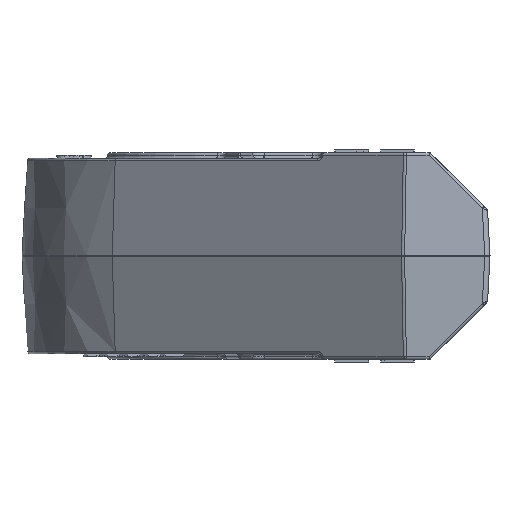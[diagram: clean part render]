
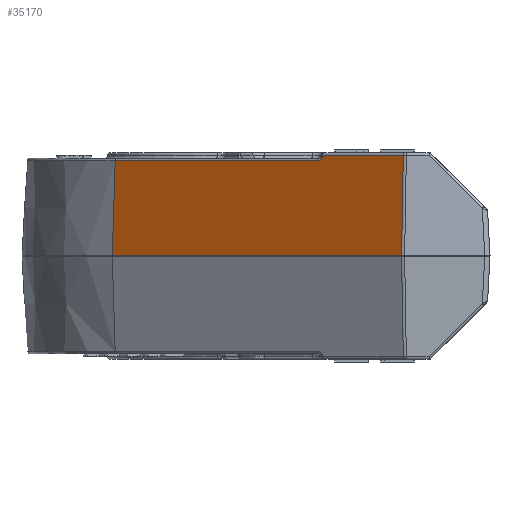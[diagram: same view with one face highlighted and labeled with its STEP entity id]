
A CAD part, left-side view. The second image highlights one B-rep face of the part: STEP entity #35170.
In plain terms, the highlighted planar face has unit normal (-0.81, 0.585, 0.052).
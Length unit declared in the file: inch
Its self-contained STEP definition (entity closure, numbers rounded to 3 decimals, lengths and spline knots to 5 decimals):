
#629 = EDGE_CURVE ( 'NONE', #31764, #2611, #32347, .T. ) ;
#693 = CARTESIAN_POINT ( 'NONE',  ( -1.84766, -0.47511, 0.57561 ) ) ;
#829 = CARTESIAN_POINT ( 'NONE',  ( -1.84763, -0.47523, 0.57739 ) ) ;
#1076 = ORIENTED_EDGE ( 'NONE', *, *, #629, .F. ) ;
#2611 = VERTEX_POINT ( 'NONE', #23247 ) ;
#2899 = VERTEX_POINT ( 'NONE', #45227 ) ;
#3457 = CARTESIAN_POINT ( 'NONE',  ( -1.82785, -0.44523, 0.54829 ) ) ;
#3641 = VERTEX_POINT ( 'NONE', #51907 ) ;
#4144 = CARTESIAN_POINT ( 'NONE',  ( -0.99013, 0.71494, 0.54829 ) ) ;
#7547 =( BOUNDED_CURVE ( )  B_SPLINE_CURVE ( 3, ( #3457, #48493, #35960, #40728 ),
 .UNSPECIFIED., .F., .F. ) 
 B_SPLINE_CURVE_WITH_KNOTS ( ( 4, 4 ),
 ( 4.80167, 6.28319 ),
 .UNSPECIFIED. ) 
 CURVE ( )  GEOMETRIC_REPRESENTATION_ITEM ( )  RATIONAL_B_SPLINE_CURVE ( ( 1., 0.825, 0.825, 1. ) ) 
 REPRESENTATION_ITEM ( '' )  );
#7894 = CARTESIAN_POINT ( 'NONE',  ( -1.8475, -0.47523, 0.57954 ) ) ;
#8786 = CARTESIAN_POINT ( 'NONE',  ( -1.84766, -0.47519, 0.5765 ) ) ;
#8865 = CARTESIAN_POINT ( 'NONE',  ( -2.18016, -0.94029, 0.6282 ) ) ;
#9030 = EDGE_CURVE ( 'NONE', #27590, #38512, #25603, .T. ) ;
#10802 = VERTEX_POINT ( 'NONE', #24592 ) ;
#11014 = EDGE_CURVE ( 'NONE', #2899, #31764, #7547, .T. ) ;
#11278 = CARTESIAN_POINT ( 'NONE',  ( -1.84858, -0.47523, 0.56279 ) ) ;
#11896 = CARTESIAN_POINT ( 'NONE',  ( -1.01335, 0.73172, 0.00157 ) ) ;
#12937 = DIRECTION ( 'NONE',  ( 0.052, -0.017, 0.998 ) ) ;
#13216 = ORIENTED_EDGE ( 'NONE', *, *, #37309, .T. ) ;
#13675 = VECTOR ( 'NONE', #29245, 39.37008 ) ;
#13821 = EDGE_CURVE ( 'NONE', #3641, #23132, #42950, .T. ) ;
#14807 = ORIENTED_EDGE ( 'NONE', *, *, #9030, .T. ) ;
#15315 = CARTESIAN_POINT ( 'NONE',  ( -0.98819, 0.71355, 0.59375 ) ) ;
#16882 = CARTESIAN_POINT ( 'NONE',  ( -1.01335, 0.73172, 0.00157 ) ) ;
#17953 = ORIENTED_EDGE ( 'NONE', *, *, #13821, .T. ) ;
#18769 = EDGE_LOOP ( 'NONE', ( #24137, #34765, #17953, #22640, #1076, #22235, #13216, #14807 ) ) ;
#21082 = EDGE_CURVE ( 'NONE', #23132, #2611, #24823, .T. ) ;
#21129 = CARTESIAN_POINT ( 'NONE',  ( -1.84766, -0.47511, 0.57561 ) ) ;
#22235 = ORIENTED_EDGE ( 'NONE', *, *, #11014, .F. ) ;
#22640 = ORIENTED_EDGE ( 'NONE', *, *, #21082, .T. ) ;
#23132 = VERTEX_POINT ( 'NONE', #7894 ) ;
#23247 = CARTESIAN_POINT ( 'NONE',  ( -1.84758, -0.47523, 0.57829 ) ) ;
#24137 = ORIENTED_EDGE ( 'NONE', *, *, #38955, .T. ) ;
#24592 = CARTESIAN_POINT ( 'NONE',  ( -2.213, -0.92967, 0.00157 ) ) ;
#24823 = LINE ( 'NONE', #11278, #48785 ) ;
#25155 = LINE ( 'NONE', #11896, #44014 ) ;
#25253 = EDGE_CURVE ( 'NONE', #10802, #3641, #28270, .T. ) ;
#25603 = LINE ( 'NONE', #49669, #13675 ) ;
#27590 = VERTEX_POINT ( 'NONE', #40879 ) ;
#28270 = LINE ( 'NONE', #8865, #49055 ) ;
#28989 = CARTESIAN_POINT ( 'NONE',  ( -1.84758, -0.47523, 0.57829 ) ) ;
#29245 = DIRECTION ( 'NONE',  ( -0.042, 0.031, -0.999 ) ) ;
#30875 = LINE ( 'NONE', #4144, #34644 ) ;
#31764 = VERTEX_POINT ( 'NONE', #693 ) ;
#32347 =( BOUNDED_CURVE ( )  B_SPLINE_CURVE ( 3, ( #21129, #8786, #829, #28989 ),
 .UNSPECIFIED., .F., .F. ) 
 B_SPLINE_CURVE_WITH_KNOTS ( ( 4, 4 ),
 ( 0., 0.08929 ),
 .UNSPECIFIED. ) 
 CURVE ( )  GEOMETRIC_REPRESENTATION_ITEM ( )  RATIONAL_B_SPLINE_CURVE ( ( 1., 0.999, 0.999, 1. ) ) 
 REPRESENTATION_ITEM ( '' )  );
#34086 = VECTOR ( 'NONE', #46103, 39.37008 ) ;
#34644 = VECTOR ( 'NONE', #36291, 39.37008 ) ;
#34765 = ORIENTED_EDGE ( 'NONE', *, *, #25253, .T. ) ;
#35170 = ADVANCED_FACE ( 'NONE', ( #44456 ), #51748, .F. ) ;
#35960 = CARTESIAN_POINT ( 'NONE',  ( -1.84766, -0.47365, 0.55932 ) ) ;
#36291 = DIRECTION ( 'NONE',  ( 0.585, 0.811, 0. ) ) ;
#37309 = EDGE_CURVE ( 'NONE', #2899, #27590, #30875, .T. ) ;
#38295 = AXIS2_PLACEMENT_3D ( 'NONE', #15315, #43586, #44112 ) ;
#38512 = VERTEX_POINT ( 'NONE', #16882 ) ;
#38955 = EDGE_CURVE ( 'NONE', #38512, #10802, #25155, .T. ) ;
#40728 = CARTESIAN_POINT ( 'NONE',  ( -1.84766, -0.47511, 0.57561 ) ) ;
#40879 = CARTESIAN_POINT ( 'NONE',  ( -0.99013, 0.71494, 0.54829 ) ) ;
#42950 = LINE ( 'NONE', #50348, #34086 ) ;
#43586 = DIRECTION ( 'NONE',  ( 0.81, -0.585, -0.052 ) ) ;
#44014 = VECTOR ( 'NONE', #44216, 39.37008 ) ;
#44112 = DIRECTION ( 'NONE',  ( 0., 0.089, -0.996 ) ) ;
#44216 = DIRECTION ( 'NONE',  ( -0.585, -0.811, 0. ) ) ;
#44456 = FACE_OUTER_BOUND ( 'NONE', #18769, .T. ) ;
#45227 = CARTESIAN_POINT ( 'NONE',  ( -1.82785, -0.44523, 0.54829 ) ) ;
#46103 = DIRECTION ( 'NONE',  ( 0.585, 0.811, 0. ) ) ;
#47669 = DIRECTION ( 'NONE',  ( -0.065, 0., -0.998 ) ) ;
#48493 = CARTESIAN_POINT ( 'NONE',  ( -1.83966, -0.46158, 0.54829 ) ) ;
#48785 = VECTOR ( 'NONE', #47669, 39.37008 ) ;
#49055 = VECTOR ( 'NONE', #12937, 39.37008 ) ;
#49669 = CARTESIAN_POINT ( 'NONE',  ( -0.98819, 0.71355, 0.59375 ) ) ;
#50348 = CARTESIAN_POINT ( 'NONE',  ( -1.84718, -0.47479, 0.57954 ) ) ;
#51748 = PLANE ( 'NONE',  #38295 ) ;
#51907 = CARTESIAN_POINT ( 'NONE',  ( -2.18271, -0.93947, 0.57954 ) ) ;
